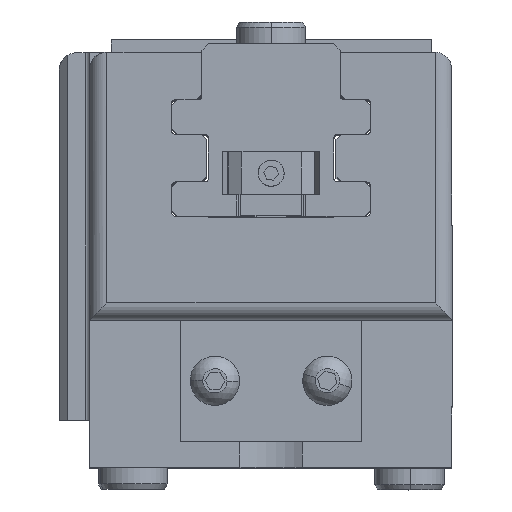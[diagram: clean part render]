
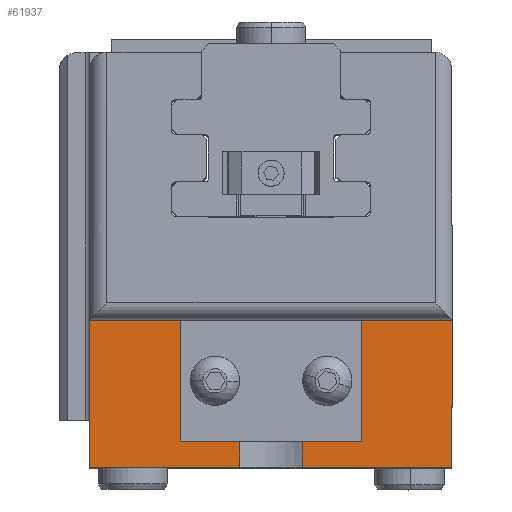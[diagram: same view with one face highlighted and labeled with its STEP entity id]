
A CAD part, top view. The second image highlights one B-rep face of the part: STEP entity #61937.
In plain terms, the highlighted planar face has unit normal (0, 0, 1).
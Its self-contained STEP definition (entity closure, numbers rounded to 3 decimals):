
#273 = VERTEX_POINT ( 'NONE', #103322 ) ;
#1265 = VERTEX_POINT ( 'NONE', #83807 ) ;
#1297 = DIRECTION ( 'NONE',  ( 1., 0., 0. ) ) ;
#1836 = CARTESIAN_POINT ( 'NONE',  ( 6.5, 10., 31.5 ) ) ;
#2050 = EDGE_CURVE ( 'NONE', #20212, #39943, #67835, .T. ) ;
#2363 = VECTOR ( 'NONE', #114447, 1000. ) ;
#2594 = PLANE ( 'NONE',  #35451 ) ;
#3882 = EDGE_CURVE ( 'NONE', #45817, #109135, #7129, .T. ) ;
#6094 = EDGE_CURVE ( 'NONE', #89154, #111083, #91721, .T. ) ;
#6726 = DIRECTION ( 'NONE',  ( 1., 0., 0. ) ) ;
#7129 = LINE ( 'NONE', #14876, #99993 ) ;
#7886 = CARTESIAN_POINT ( 'NONE',  ( -21., 17., 31.5 ) ) ;
#7901 = CARTESIAN_POINT ( 'NONE',  ( 21., 0., 31.5 ) ) ;
#8493 = CARTESIAN_POINT ( 'NONE',  ( 21., 17., 31.5 ) ) ;
#10014 = CIRCLE ( 'NONE', #49071, 1.25 ) ;
#10404 = EDGE_LOOP ( 'NONE', ( #99945, #50253 ) ) ;
#11223 = CARTESIAN_POINT ( 'NONE',  ( -32.5, 7., 31.5 ) ) ;
#14876 = CARTESIAN_POINT ( 'NONE',  ( 3.606, 0., 31.5 ) ) ;
#16245 = CARTESIAN_POINT ( 'NONE',  ( -7.75, 10., 31.5 ) ) ;
#16592 = VECTOR ( 'NONE', #1297, 1000. ) ;
#20193 = ORIENTED_EDGE ( 'NONE', *, *, #42081, .T. ) ;
#20212 = VERTEX_POINT ( 'NONE', #89316 ) ;
#21723 = VERTEX_POINT ( 'NONE', #92160 ) ;
#21797 = VECTOR ( 'NONE', #24085, 1000. ) ;
#22856 = EDGE_CURVE ( 'NONE', #91409, #39943, #44547, .T. ) ;
#23135 = DIRECTION ( 'NONE',  ( 0., 0., -1. ) ) ;
#24085 = DIRECTION ( 'NONE',  ( 0., -1., 0. ) ) ;
#25206 = CARTESIAN_POINT ( 'NONE',  ( -5.25, 10., 31.5 ) ) ;
#27492 = VECTOR ( 'NONE', #83864, 1000. ) ;
#29653 = VECTOR ( 'NONE', #68306, 1000. ) ;
#31056 = DIRECTION ( 'NONE',  ( 1., 0., 0. ) ) ;
#33116 = LINE ( 'NONE', #82650, #21797 ) ;
#33363 = CIRCLE ( 'NONE', #49760, 1.25 ) ;
#33702 = VERTEX_POINT ( 'NONE', #7886 ) ;
#35451 = AXIS2_PLACEMENT_3D ( 'NONE', #91327, #23135, #71414 ) ;
#35536 = EDGE_LOOP ( 'NONE', ( #49611, #65941, #97729, #56153, #41518, #86691, #75452, #124733, #102856, #20193 ) ) ;
#36049 = ORIENTED_EDGE ( 'NONE', *, *, #6094, .F. ) ;
#36246 = AXIS2_PLACEMENT_3D ( 'NONE', #54719, #84277, #104204 ) ;
#37514 = CARTESIAN_POINT ( 'NONE',  ( -32.5, 0., 31.5 ) ) ;
#37557 = EDGE_CURVE ( 'NONE', #45817, #1265, #88967, .T. ) ;
#39918 = CARTESIAN_POINT ( 'NONE',  ( 6.5, 10., 31.5 ) ) ;
#39943 = VERTEX_POINT ( 'NONE', #69725 ) ;
#41518 = ORIENTED_EDGE ( 'NONE', *, *, #94670, .F. ) ;
#42081 = EDGE_CURVE ( 'NONE', #21723, #65435, #106359, .T. ) ;
#43702 = FACE_BOUND ( 'NONE', #10404, .T. ) ;
#44547 = LINE ( 'NONE', #7901, #29653 ) ;
#45391 = EDGE_CURVE ( 'NONE', #33702, #91409, #116067, .T. ) ;
#45715 = DIRECTION ( 'NONE',  ( 0., 1., 0. ) ) ;
#45817 = VERTEX_POINT ( 'NONE', #87528 ) ;
#46654 = EDGE_CURVE ( 'NONE', #273, #86813, #33363, .T. ) ;
#49071 = AXIS2_PLACEMENT_3D ( 'NONE', #1836, #70663, #59749 ) ;
#49611 = ORIENTED_EDGE ( 'NONE', *, *, #50449, .F. ) ;
#49760 = AXIS2_PLACEMENT_3D ( 'NONE', #39918, #77913, #118435 ) ;
#50253 = ORIENTED_EDGE ( 'NONE', *, *, #46654, .F. ) ;
#50449 = EDGE_CURVE ( 'NONE', #100584, #65435, #33116, .T. ) ;
#52553 = CARTESIAN_POINT ( 'NONE',  ( 3.606, 3., 31.5 ) ) ;
#54719 = CARTESIAN_POINT ( 'NONE',  ( -6.5, 10., 31.5 ) ) ;
#54749 = DIRECTION ( 'NONE',  ( 0., 1., 0. ) ) ;
#55434 = CARTESIAN_POINT ( 'NONE',  ( -21., 48., 31.5 ) ) ;
#56153 = ORIENTED_EDGE ( 'NONE', *, *, #37557, .T. ) ;
#56264 = CARTESIAN_POINT ( 'NONE',  ( -32.5, 17., 31.5 ) ) ;
#59749 = DIRECTION ( 'NONE',  ( 1., 0., 0. ) ) ;
#60933 = CARTESIAN_POINT ( 'NONE',  ( -3.606, 0., 31.5 ) ) ;
#61105 = CIRCLE ( 'NONE', #106301, 1.25 ) ;
#61937 = ADVANCED_FACE ( 'Faccia26', ( #43702, #112575, #82983 ), #2594, .F. ) ;
#63165 = VECTOR ( 'NONE', #31056, 1000. ) ;
#63925 = EDGE_LOOP ( 'NONE', ( #83514, #36049 ) ) ;
#65435 = VERTEX_POINT ( 'NONE', #60933 ) ;
#65558 = LINE ( 'NONE', #75206, #2363 ) ;
#65941 = ORIENTED_EDGE ( 'NONE', *, *, #108091, .F. ) ;
#67835 = LINE ( 'NONE', #11223, #116199 ) ;
#68306 = DIRECTION ( 'NONE',  ( 0., -1., 0. ) ) ;
#69725 = CARTESIAN_POINT ( 'NONE',  ( 21., 7., 31.5 ) ) ;
#70663 = DIRECTION ( 'NONE',  ( 0., 0., 1. ) ) ;
#70749 = CARTESIAN_POINT ( 'NONE',  ( -3.606, 3., 31.5 ) ) ;
#71414 = DIRECTION ( 'NONE',  ( -1., 0., 0. ) ) ;
#73460 = LINE ( 'NONE', #55434, #109620 ) ;
#74236 = VECTOR ( 'NONE', #6726, 1000. ) ;
#74851 = CARTESIAN_POINT ( 'NONE',  ( -32.5, 3., 31.5 ) ) ;
#75113 = EDGE_CURVE ( 'NONE', #86813, #273, #10014, .T. ) ;
#75206 = CARTESIAN_POINT ( 'NONE',  ( 20.9, 0., 31.5 ) ) ;
#75452 = ORIENTED_EDGE ( 'NONE', *, *, #22856, .F. ) ;
#77913 = DIRECTION ( 'NONE',  ( 0., 0., 1. ) ) ;
#82650 = CARTESIAN_POINT ( 'NONE',  ( -3.606, 0., 31.5 ) ) ;
#82668 = DIRECTION ( 'NONE',  ( 0., 0., 1. ) ) ;
#82983 = FACE_OUTER_BOUND ( 'NONE', #35536, .T. ) ;
#83514 = ORIENTED_EDGE ( 'NONE', *, *, #97442, .F. ) ;
#83807 = CARTESIAN_POINT ( 'NONE',  ( 20.9, 0., 31.5 ) ) ;
#83864 = DIRECTION ( 'NONE',  ( -1., 0., 0. ) ) ;
#84277 = DIRECTION ( 'NONE',  ( 0., 0., 1. ) ) ;
#84489 = LINE ( 'NONE', #74851, #27492 ) ;
#86691 = ORIENTED_EDGE ( 'NONE', *, *, #2050, .T. ) ;
#86813 = VERTEX_POINT ( 'NONE', #93083 ) ;
#87528 = CARTESIAN_POINT ( 'NONE',  ( 3.606, 0., 31.5 ) ) ;
#88967 = LINE ( 'NONE', #117351, #63165 ) ;
#89154 = VERTEX_POINT ( 'NONE', #16245 ) ;
#89316 = CARTESIAN_POINT ( 'NONE',  ( 20.9, 7., 31.5 ) ) ;
#89632 = DIRECTION ( 'NONE',  ( 1., 0., 0. ) ) ;
#91327 = CARTESIAN_POINT ( 'NONE',  ( -32.5, 0., 31.5 ) ) ;
#91409 = VERTEX_POINT ( 'NONE', #8493 ) ;
#91721 = CIRCLE ( 'NONE', #36246, 1.25 ) ;
#92160 = CARTESIAN_POINT ( 'NONE',  ( -21., 0., 31.5 ) ) ;
#93083 = CARTESIAN_POINT ( 'NONE',  ( 7.75, 10., 31.5 ) ) ;
#94670 = EDGE_CURVE ( 'NONE', #20212, #1265, #65558, .T. ) ;
#97442 = EDGE_CURVE ( 'NONE', #111083, #89154, #61105, .T. ) ;
#97729 = ORIENTED_EDGE ( 'NONE', *, *, #3882, .F. ) ;
#99945 = ORIENTED_EDGE ( 'NONE', *, *, #75113, .F. ) ;
#99993 = VECTOR ( 'NONE', #54749, 1000. ) ;
#100584 = VERTEX_POINT ( 'NONE', #70749 ) ;
#101325 = CARTESIAN_POINT ( 'NONE',  ( -6.5, 10., 31.5 ) ) ;
#101971 = DIRECTION ( 'NONE',  ( 1., 0., 0. ) ) ;
#102856 = ORIENTED_EDGE ( 'NONE', *, *, #122866, .F. ) ;
#103322 = CARTESIAN_POINT ( 'NONE',  ( 5.25, 10., 31.5 ) ) ;
#104204 = DIRECTION ( 'NONE',  ( 1., 0., 0. ) ) ;
#106301 = AXIS2_PLACEMENT_3D ( 'NONE', #101325, #82668, #101971 ) ;
#106359 = LINE ( 'NONE', #37514, #16592 ) ;
#108091 = EDGE_CURVE ( 'NONE', #109135, #100584, #84489, .T. ) ;
#109135 = VERTEX_POINT ( 'NONE', #52553 ) ;
#109620 = VECTOR ( 'NONE', #45715, 1000. ) ;
#111083 = VERTEX_POINT ( 'NONE', #25206 ) ;
#112575 = FACE_BOUND ( 'NONE', #63925, .T. ) ;
#114447 = DIRECTION ( 'NONE',  ( 0., -1., 0. ) ) ;
#116067 = LINE ( 'NONE', #56264, #74236 ) ;
#116199 = VECTOR ( 'NONE', #89632, 1000. ) ;
#117351 = CARTESIAN_POINT ( 'NONE',  ( -32.5, 0., 31.5 ) ) ;
#118435 = DIRECTION ( 'NONE',  ( 1., 0., 0. ) ) ;
#122866 = EDGE_CURVE ( 'NONE', #21723, #33702, #73460, .T. ) ;
#124733 = ORIENTED_EDGE ( 'NONE', *, *, #45391, .F. ) ;
